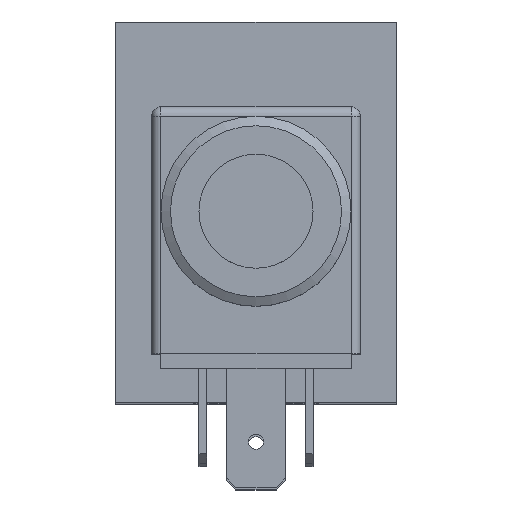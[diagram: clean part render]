
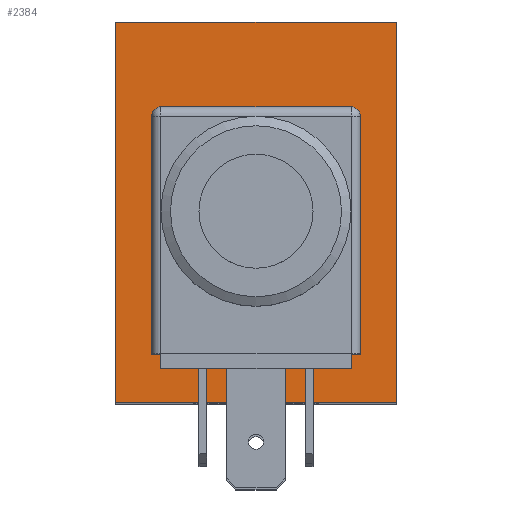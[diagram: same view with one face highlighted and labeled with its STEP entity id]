
A CAD part, top view. The second image highlights one B-rep face of the part: STEP entity #2384.
In plain terms, the highlighted planar face has unit normal (0, 0, 1).
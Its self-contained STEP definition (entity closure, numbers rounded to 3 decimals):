
#31=LINE('',#3638,#202);
#36=LINE('',#3651,#207);
#40=LINE('',#3663,#211);
#44=LINE('',#3675,#215);
#46=LINE('',#3685,#217);
#51=LINE('',#3694,#222);
#55=LINE('',#3702,#226);
#56=LINE('',#3704,#227);
#202=VECTOR('',#2945,15.);
#207=VECTOR('',#2958,15.);
#211=VECTOR('',#2970,15.);
#215=VECTOR('',#2982,15.);
#217=VECTOR('',#2994,40.);
#222=VECTOR('',#3001,29.5);
#226=VECTOR('',#3009,29.5);
#227=VECTOR('',#3012,40.);
#476=FACE_BOUND('',#780,.T.);
#477=FACE_BOUND('',#781,.T.);
#780=EDGE_LOOP('',(#1695,#1696,#1697,#1698,#1699,#1700,#1701,#1702));
#781=EDGE_LOOP('',(#1703,#1704,#1705,#1706));
#987=CIRCLE('',#2585,3.5);
#989=CIRCLE('',#2589,3.5);
#991=CIRCLE('',#2593,3.5);
#993=CIRCLE('',#2597,3.5);
#1102=VERTEX_POINT('',#3635);
#1103=VERTEX_POINT('',#3637);
#1105=VERTEX_POINT('',#3643);
#1107=VERTEX_POINT('',#3649);
#1109=VERTEX_POINT('',#3655);
#1111=VERTEX_POINT('',#3661);
#1113=VERTEX_POINT('',#3667);
#1115=VERTEX_POINT('',#3673);
#1116=VERTEX_POINT('',#3681);
#1118=VERTEX_POINT('',#3684);
#1120=VERTEX_POINT('',#3690);
#1123=VERTEX_POINT('',#3700);
#1318=EDGE_CURVE('',#1103,#1102,#31,.T.);
#1322=EDGE_CURVE('',#1102,#1105,#987,.T.);
#1325=EDGE_CURVE('',#1105,#1107,#36,.T.);
#1328=EDGE_CURVE('',#1107,#1109,#989,.T.);
#1331=EDGE_CURVE('',#1109,#1111,#40,.T.);
#1334=EDGE_CURVE('',#1111,#1113,#991,.T.);
#1337=EDGE_CURVE('',#1113,#1115,#44,.T.);
#1339=EDGE_CURVE('',#1115,#1103,#993,.T.);
#1341=EDGE_CURVE('',#1118,#1116,#46,.T.);
#1346=EDGE_CURVE('',#1120,#1118,#51,.T.);
#1350=EDGE_CURVE('',#1116,#1123,#55,.T.);
#1351=EDGE_CURVE('',#1123,#1120,#56,.T.);
#1695=ORIENTED_EDGE('',*,*,#1318,.T.);
#1696=ORIENTED_EDGE('',*,*,#1322,.T.);
#1697=ORIENTED_EDGE('',*,*,#1325,.T.);
#1698=ORIENTED_EDGE('',*,*,#1328,.T.);
#1699=ORIENTED_EDGE('',*,*,#1331,.T.);
#1700=ORIENTED_EDGE('',*,*,#1334,.T.);
#1701=ORIENTED_EDGE('',*,*,#1337,.T.);
#1702=ORIENTED_EDGE('',*,*,#1339,.T.);
#1703=ORIENTED_EDGE('',*,*,#1351,.T.);
#1704=ORIENTED_EDGE('',*,*,#1346,.T.);
#1705=ORIENTED_EDGE('',*,*,#1341,.T.);
#1706=ORIENTED_EDGE('',*,*,#1350,.T.);
#2162=PLANE('',#2603);
#2384=ADVANCED_FACE('',(#476,#477),#2162,.T.);
#2585=AXIS2_PLACEMENT_3D('',#3645,#2952,#2953);
#2589=AXIS2_PLACEMENT_3D('',#3657,#2964,#2965);
#2593=AXIS2_PLACEMENT_3D('',#3669,#2976,#2977);
#2597=AXIS2_PLACEMENT_3D('',#3678,#2987,#2988);
#2603=AXIS2_PLACEMENT_3D('',#3703,#3010,#3011);
#2945=DIRECTION('',(1.,0.,0.));
#2952=DIRECTION('center_axis',(0.,0.,-1.));
#2953=DIRECTION('ref_axis',(-1.,0.,0.));
#2958=DIRECTION('',(0.,-1.,0.));
#2964=DIRECTION('center_axis',(0.,0.,-1.));
#2965=DIRECTION('ref_axis',(0.,1.,0.));
#2970=DIRECTION('',(-1.,0.,0.));
#2976=DIRECTION('center_axis',(0.,0.,-1.));
#2977=DIRECTION('ref_axis',(1.,0.,0.));
#2982=DIRECTION('',(0.,1.,0.));
#2987=DIRECTION('center_axis',(0.,0.,-1.));
#2988=DIRECTION('ref_axis',(0.,-1.,0.));
#2994=DIRECTION('',(0.,-1.,0.));
#3001=DIRECTION('',(-1.,0.,0.));
#3009=DIRECTION('',(1.,0.,0.));
#3010=DIRECTION('center_axis',(0.,0.,1.));
#3011=DIRECTION('ref_axis',(1.,0.,0.));
#3012=DIRECTION('',(0.,1.,0.));
#3635=CARTESIAN_POINT('',(7.5,11.,61.));
#3637=CARTESIAN_POINT('',(-7.5,11.,61.));
#3638=CARTESIAN_POINT('',(-3.75,11.,61.));
#3643=CARTESIAN_POINT('',(11.,7.5,61.));
#3645=CARTESIAN_POINT('Origin',(7.5,7.5,61.));
#3649=CARTESIAN_POINT('',(11.,-7.5,61.));
#3651=CARTESIAN_POINT('',(11.,-6.25,61.));
#3655=CARTESIAN_POINT('',(7.5,-11.,61.));
#3657=CARTESIAN_POINT('Origin',(7.5,-7.5,61.));
#3661=CARTESIAN_POINT('',(-7.5,-11.,61.));
#3663=CARTESIAN_POINT('',(3.75,-11.,61.));
#3667=CARTESIAN_POINT('',(-11.,-7.5,61.));
#3669=CARTESIAN_POINT('Origin',(-7.5,-7.5,61.));
#3673=CARTESIAN_POINT('',(-11.,7.5,61.));
#3675=CARTESIAN_POINT('',(-11.,-13.75,61.));
#3678=CARTESIAN_POINT('Origin',(-7.5,7.5,61.));
#3681=CARTESIAN_POINT('',(-14.75,-20.,61.));
#3684=CARTESIAN_POINT('',(-14.75,20.,61.));
#3685=CARTESIAN_POINT('',(-14.75,-20.,61.));
#3690=CARTESIAN_POINT('',(14.75,20.,61.));
#3694=CARTESIAN_POINT('',(0.,20.,61.));
#3700=CARTESIAN_POINT('',(14.75,-20.,61.));
#3702=CARTESIAN_POINT('',(0.,-20.,61.));
#3703=CARTESIAN_POINT('Origin',(0.,-20.,61.));
#3704=CARTESIAN_POINT('',(14.75,-20.,61.));
